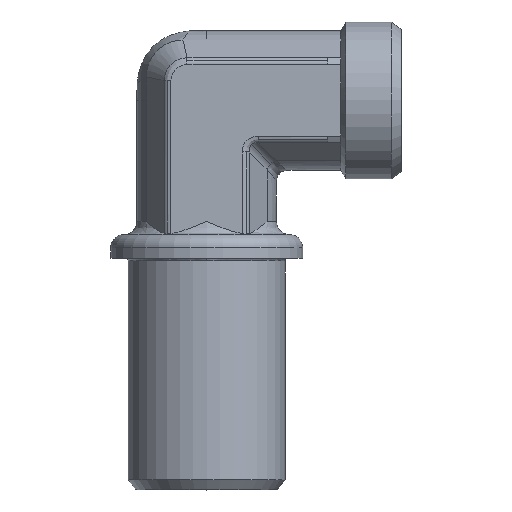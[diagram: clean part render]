
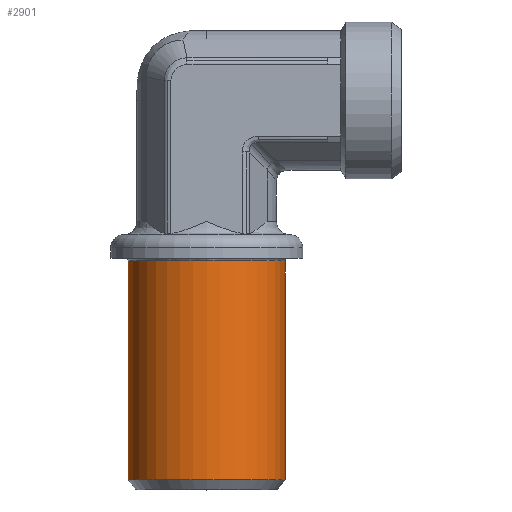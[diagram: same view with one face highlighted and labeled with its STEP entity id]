
A CAD part, top view. The second image highlights one B-rep face of the part: STEP entity #2901.
In plain terms, the highlighted cylindrical face has radius 14.91 mm (diameter 29.82 mm), a partial arc.
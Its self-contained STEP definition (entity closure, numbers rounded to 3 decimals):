
#933=CARTESIAN_POINT('',(26.,0.,-14.91));
#934=VERTEX_POINT('',#933);
#942=CARTESIAN_POINT('',(26.,-14.91,0.));
#943=VERTEX_POINT('',#942);
#944=CARTESIAN_POINT('',(26.,0.,0.));
#945=DIRECTION('',(-1.0,0.0,0.0));
#946=DIRECTION('',(0.0,0.0,1.0));
#947=AXIS2_PLACEMENT_3D('',#944,#945,#946);
#948=CIRCLE('',#947,14.91);
#949=EDGE_CURVE('',#934,#943,#948,.T.);
#975=CARTESIAN_POINT('',(67.563,0.,14.91));
#976=VERTEX_POINT('',#975);
#977=CARTESIAN_POINT('',(26.,0.,14.91));
#978=VERTEX_POINT('',#977);
#979=CARTESIAN_POINT('',(67.563,0.,14.91));
#980=DIRECTION('',(-1.0,0.0,0.0));
#981=VECTOR('',#980,41.563);
#982=LINE('',#979,#981);
#983=EDGE_CURVE('',#976,#978,#982,.T.);
#985=CARTESIAN_POINT('',(67.563,0.,-14.91));
#986=VERTEX_POINT('',#985);
#994=CARTESIAN_POINT('',(26.,0.,-14.91));
#995=DIRECTION('',(1.0,0.0,0.0));
#996=VECTOR('',#995,41.563);
#997=LINE('',#994,#996);
#998=EDGE_CURVE('',#934,#986,#997,.T.);
#2871=CARTESIAN_POINT('',(67.563,0.,0.));
#2872=DIRECTION('',(-1.0,0.0,0.0));
#2873=DIRECTION('',(0.0,0.0,1.0));
#2874=AXIS2_PLACEMENT_3D('',#2871,#2872,#2873);
#2875=CIRCLE('',#2874,14.91);
#2876=EDGE_CURVE('',#986,#976,#2875,.T.);
#2883=CARTESIAN_POINT('',(46.781,0.,0.));
#2884=DIRECTION('',(-1.0,0.,0.));
#2885=DIRECTION('',(0.0,0.0,1.0));
#2886=AXIS2_PLACEMENT_3D('',#2883,#2884,#2885);
#2887=CYLINDRICAL_SURFACE('',#2886,14.91);
#2888=ORIENTED_EDGE('',*,*,#983,.T.);
#2889=CARTESIAN_POINT('',(26.,0.,0.));
#2890=DIRECTION('',(-1.0,0.0,0.0));
#2891=DIRECTION('',(0.0,0.0,1.0));
#2892=AXIS2_PLACEMENT_3D('',#2889,#2890,#2891);
#2893=CIRCLE('',#2892,14.91);
#2894=EDGE_CURVE('',#943,#978,#2893,.T.);
#2895=ORIENTED_EDGE('',*,*,#2894,.F.);
#2896=ORIENTED_EDGE('',*,*,#949,.F.);
#2897=ORIENTED_EDGE('',*,*,#998,.T.);
#2898=ORIENTED_EDGE('',*,*,#2876,.T.);
#2899=EDGE_LOOP('',(#2888,#2895,#2896,#2897,#2898));
#2900=FACE_OUTER_BOUND('',#2899,.T.);
#2901=ADVANCED_FACE('',(#2900),#2887,.T.);
